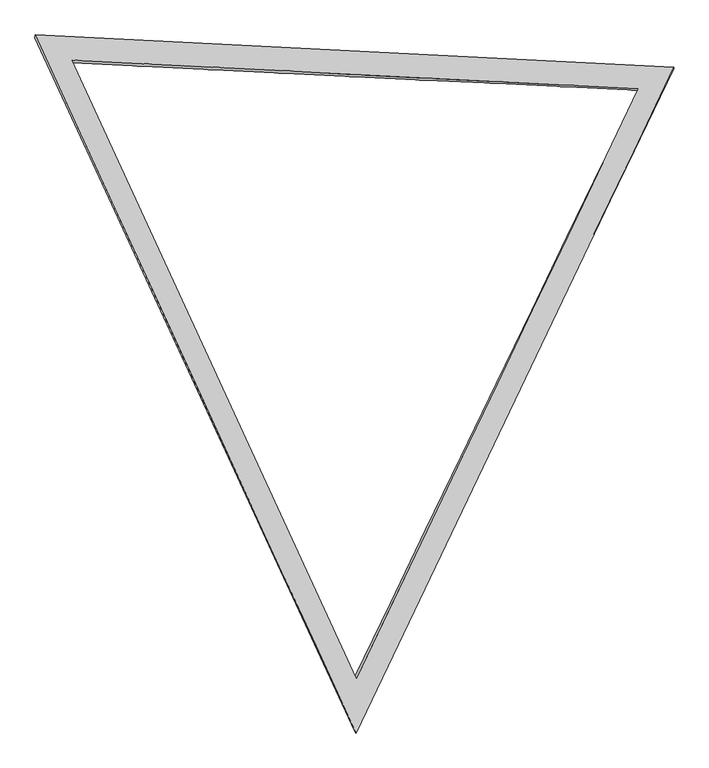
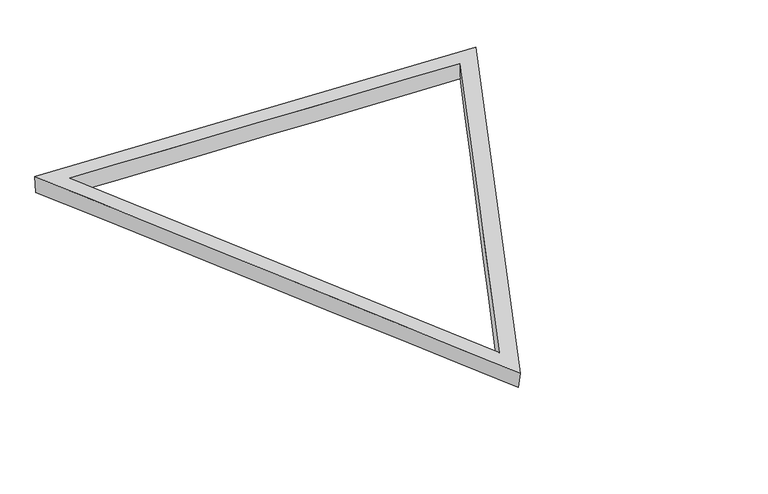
"""IFC4 building model written with IfcOpenShell, lengths in millimetres: plate geometry."""

from ifc_helpers import new_model, si_unit, frame, origin, place, context, project, spatial, source, transform, mapped, element, save
from ifc_brep_helpers import plane_surface, spline_surface, advanced_brep


def plate_08aad859(model_context):
    return source(origin(), model_context, "Body", "AdvancedBrep", [
        advanced_brep(
        [(3627.3179858, 6970.0889256, 0.0), (3628.4914719, 6993.567348, 201.7921923), (6113.7819467, 1592.2580996, 201.7974798), (6100.2220175, 1609.2902145, 0.0), (8575.3489359, 6741.5252613, 202.7838615), (8573.1260493, 6729.2845289, 0.0), (6096.0, 1133.334001, 0.0), (8889.6033763, 6917.3164038, 0.0), (8890.1697379, 6928.9487317, 202.8659858), (6110.2689048, 1113.7699712, 201.7520436), (3302.3966237, 7189.3495952, 0.0), (3303.5766263, 7213.5853107, 201.7460723)],
        [
            (0, 1),
            (1, 2),
            (2, 3),
            (3, 0),
            (2, 4),
            (4, 5),
            (5, 3),
            (0, 5),
            (4, 1),
            (6, 7),
            (7, 8),
            (8, 9),
            (9, 6),
            (7, 10),
            (10, 11),
            (11, 8),
            (9, 11),
            (10, 6),
        ],
        [
            spline_surface(1, 1, [[(3627.3179858, 6970.0889256, 0.0), (6100.2220175, 1609.2902145, 0.0)], [(3628.4914719, 6993.567348, 201.7921923), (6113.7819467, 1592.2580996, 201.7974798)]], [2, 2], [2, 2], [0.0, 1.0], [0.0, 1.0]),
            spline_surface(1, 1, [[(6100.2220175, 1609.2902145, 0.0), (8573.1260493, 6729.2845289, 0.0)], [(6113.7819467, 1592.2580996, 201.7974798), (8575.3489359, 6741.5252613, 202.7838615)]], [2, 2], [2, 2], [0.0, 1.0], [0.0, 1.0]),
            spline_surface(1, 1, [[(8573.1260493, 6729.2845289, 0.0), (3627.3179858, 6970.0889256, 0.0)], [(8575.3489359, 6741.5252613, 202.7838615), (3628.4914719, 6993.567348, 201.7921923)]], [2, 2], [2, 2], [0.0, 1.0], [0.0, 1.0]),
            spline_surface(1, 1, [[(6096.0, 1133.334001, 0.0), (6110.2689048, 1113.7699712, 201.7520436)], [(8889.6033763, 6917.3164038, 0.0), (8890.1697379, 6928.9487317, 202.8659858)]], [2, 2], [2, 2], [0.0, 1.0], [0.0, 1.0]),
            spline_surface(1, 1, [[(8889.6033763, 6917.3164038, 0.0), (8890.1697379, 6928.9487317, 202.8659858)], [(3302.3966237, 7189.3495952, 0.0), (3303.5766263, 7213.5853107, 201.7460723)]], [2, 2], [2, 2], [0.0, 1.0], [0.0, 1.0]),
            spline_surface(1, 1, [[(3302.3966237, 7189.3495952, 0.0), (3303.5766263, 7213.5853107, 201.7460723)], [(6096.0, 1133.334001, 0.0), (6110.2689048, 1113.7699712, 201.7520436)]], [2, 2], [2, 2], [0.0, 1.0], [0.0, 1.0]),
            plane_surface(frame((6101.338423, 5085.4346712, 202.1213672), z_axis=(-0.00020522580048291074, -9.34510865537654e-05, 0.9999999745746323), x_axis=(0.4180011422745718, -0.9084465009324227, 8.893064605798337e-07))),
            plane_surface(frame((6096.0, 5080.0, 0.0), z_axis=(0.0, 0.0, -1.0), x_axis=(-0.41887513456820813, 0.9080438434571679, 0.0))),
        ],
        [
            (0, [[1, 2, 3, 4]]),
            (1, [[-3, 5, 6, 7]]),
            (2, [[-1, 8, -6, 9]]),
            (3, [[10, 11, 12, 13]]),
            (4, [[-11, 14, 15, 16]]),
            (5, [[-13, 17, -15, 18]]),
            (6, [[-12, -16, -17], [-2, -9, -5]]),
            (7, [[-10, -18, -14], [-4, -7, -8]]),
        ],
    ),
    ])


if __name__ == "__main__":
    model = new_model("IFC4")
    model_context = context("Model", 3, world=origin())
    ifc_project = project(units=[si_unit("LENGTHUNIT", "METRE", prefix="MILLI")], contexts=[model_context])
    site = spatial("IfcSite", under=ifc_project)
    building = spatial("IfcBuilding", under=site)
    placement = place(None, origin())
    plate_shape = plate_08aad859(model_context)
    element("IfcPlate", 1, ObjectType="tn_cpanel_patbase_triangle_flat_seamless_frame_02_cylinder : tn_triangle_seamless_frame_t8\"xh8\"", at=placement, inside=building, context=model_context, shape_type="MappedRepresentation", body=[
        mapped(plate_shape, transform((0.0, 0.0, 0.0), x_axis=(1.0, 0.0, 0.0), y_axis=(0.0, 1.0, 0.0), z_axis=(0.0, 0.0, 1.0))),
    ])
    save(model, "model.ifc")
